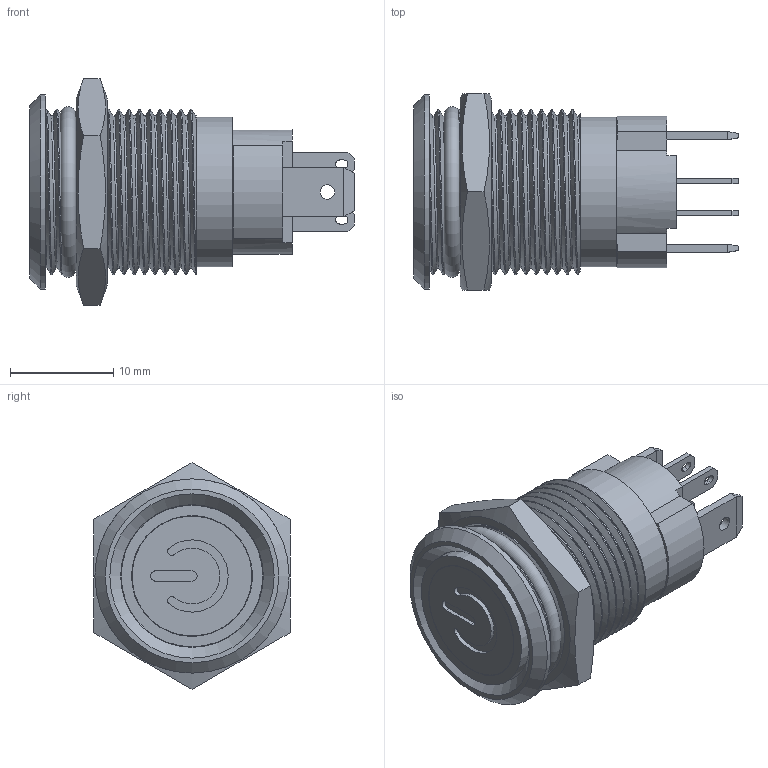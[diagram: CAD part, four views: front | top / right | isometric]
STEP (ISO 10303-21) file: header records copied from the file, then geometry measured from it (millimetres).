
FILE_DESCRIPTION(/* description */ (''),/* implementation_level */ '2;1');
FILE_NAME(/* name */ 'J16-C-271-P.stp',/* time_stamp */ '2022-12-08T16:26:39+08:00',/* author */ (''),/* organization */ (''),/* preprocessor_version */ 'ST-DEVELOPER v11',/* originating_system */ 'SIEMENS UGS NX 6.0',/* authorisation */ '');
FILE_SCHEMA (('CONFIG_CONTROL_DESIGN'));
Length unit declared in the file: millimetre
Products named in the file (1): J16-C-271-P
Bounding box: 31.4 x 19 x 21.94 mm (x, y, z)
Volume: 2706.1 mm3; surface area: 6817.1 mm2
Topology: 13 solids, 13 shells, 533 faces, 1620 edges, 974 vertices
Faces by surface type: plane 308, cylinder 141, sphere 72, cone 6, bspline 4, torus 2
Full cylindrical faces by diameter (mm): 1.4 x2, 9.56 x1, 9.7 x2, 11.6 x1, 11.7 x1, 12.2 x1, 13.6 x1, 13.7 x1, 13.8 x1, 13.9 x1, 14.5 x1, 18.8 x1
Entity records: 21322 total; most frequent: CARTESIAN_POINT 7553, ORIENTED_EDGE 2890, DIRECTION 2778, EDGE_CURVE 1445, LINE 972, VECTOR 972, VERTEX_POINT 966, AXIS2_PLACEMENT_3D 903
